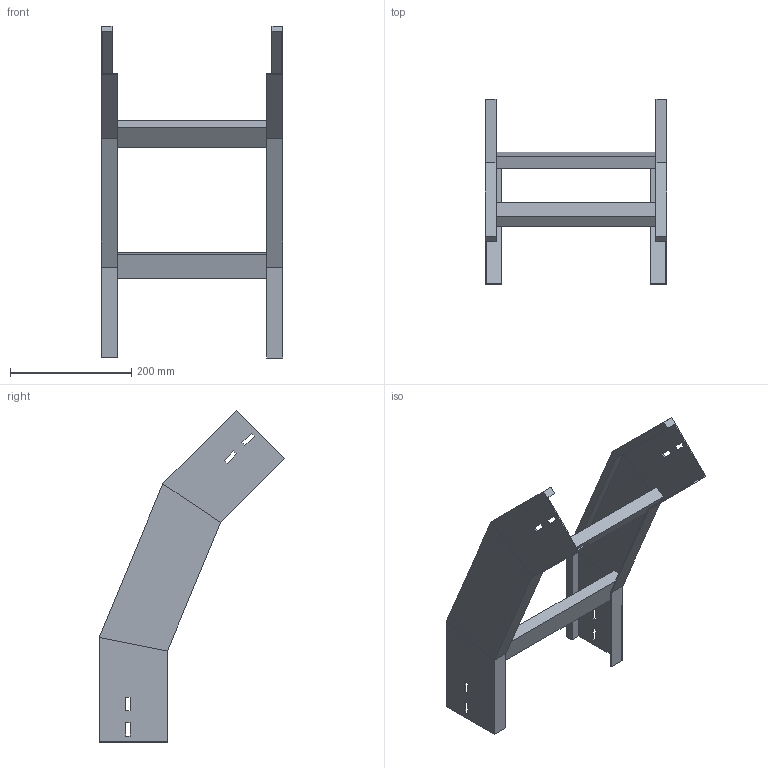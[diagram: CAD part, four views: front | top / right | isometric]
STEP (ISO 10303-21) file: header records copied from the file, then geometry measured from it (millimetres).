
FILE_DESCRIPTION (( 'STEP AP214' ), '1' );
FILE_NAME ('A2_34B3J300.step', '2025-02-21T14:53:12', ( '' ), ( '' ), 'SwSTEP 2.0', 'SolidWorks 2023', '' );
FILE_SCHEMA (( 'AUTOMOTIVE_DESIGN' ));
Length unit declared in the file: millimetre
Products named in the file (3): LONGH.DISCESA_45°_H112.5_R300; TRAVERSINO_300; A2_34B3J300
Assembly tree (5 placements, depth 2):
  A2_34B3J300
    LONGH.DISCESA_45°_H112.5_R300  x2
    TRAVERSINO_300  x3
Bounding box: 300 x 306.58 x 548.11 mm (x, y, z)
Volume: 1264594.3 mm3; surface area: 468300.6 mm2
Topology: 5 solids, 5 shells, 102 faces, 244 edges, 152 vertices
Faces by surface type: plane 102
Entity records: 1480 total; most frequent: CARTESIAN_POINT 244, ORIENTED_EDGE 232, DIRECTION 228, EDGE_CURVE 116, LINE 116, VECTOR 116, VERTEX_POINT 72, EDGE_LOOP 56
